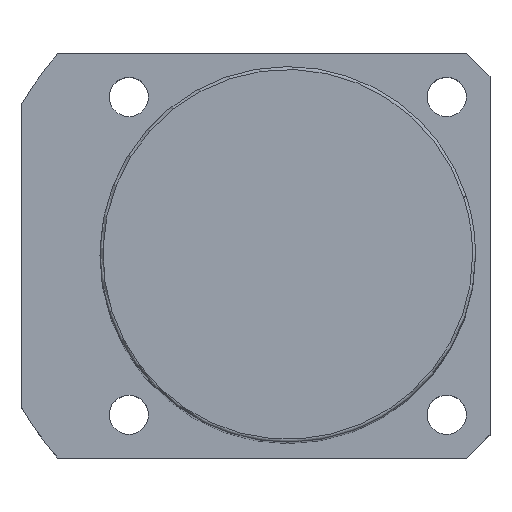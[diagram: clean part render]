
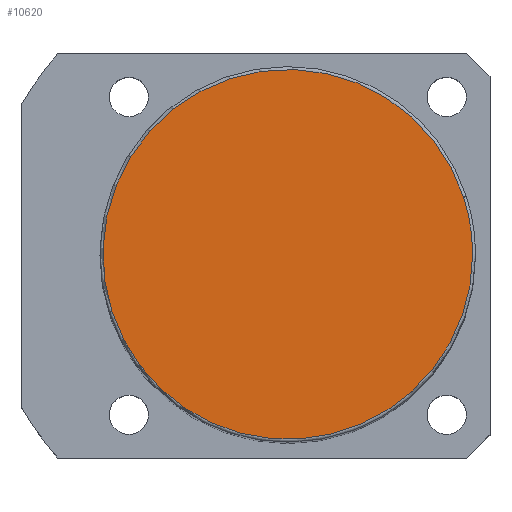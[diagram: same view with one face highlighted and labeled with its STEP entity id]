
A CAD part, top view. The second image highlights one B-rep face of the part: STEP entity #10620.
In plain terms, the highlighted planar face has unit normal (0, 0, 1).
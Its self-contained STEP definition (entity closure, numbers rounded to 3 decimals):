
#10553=CARTESIAN_POINT('',(30.434,9.889,161.0));
#10554=VERTEX_POINT('',#10553);
#10572=CARTESIAN_POINT('',(-30.434,-9.889,161.0));
#10573=VERTEX_POINT('',#10572);
#10581=CARTESIAN_POINT('',(0.0,0.0,161.0));
#10582=DIRECTION('',(0.0,0.0,1.0));
#10583=DIRECTION('',(1.0,0.0,0.0));
#10584=AXIS2_PLACEMENT_3D('',#10581,#10582,#10583);
#10585=CIRCLE('',#10584,32.0);
#10586=EDGE_CURVE('no 4887',#10554,#10573,#10585,.T.);
#10596=CARTESIAN_POINT('',(32.0,0.0,161.0));
#10597=VERTEX_POINT('',#10596);
#10598=CARTESIAN_POINT('',(0.0,0.0,161.0));
#10599=DIRECTION('',(0.0,0.0,1.0));
#10600=DIRECTION('',(1.0,0.0,0.0));
#10601=AXIS2_PLACEMENT_3D('',#10598,#10599,#10600);
#10602=CIRCLE('',#10601,32.0);
#10603=EDGE_CURVE('no 4896',#10597,#10554,#10602,.T.);
#10604=ORIENTED_EDGE('',*,*,#10603,.T.);
#10605=ORIENTED_EDGE('',*,*,#10586,.T.);
#10606=CARTESIAN_POINT('',(0.0,0.0,161.0));
#10607=DIRECTION('',(0.0,0.0,1.0));
#10608=DIRECTION('',(1.0,0.0,0.0));
#10609=AXIS2_PLACEMENT_3D('',#10606,#10607,#10608);
#10610=CIRCLE('',#10609,32.0);
#10611=EDGE_CURVE('no 4902',#10573,#10597,#10610,.T.);
#10612=ORIENTED_EDGE('',*,*,#10611,.T.);
#10613=EDGE_LOOP('',(#10604,#10605,#10612));
#10614=FACE_OUTER_BOUND('',#10613,.T.);
#10615=CARTESIAN_POINT('',(0.0,0.0,161.0));
#10616=DIRECTION('',(0.0,0.0,1.0));
#10617=DIRECTION('',(1.0,0.0,0.0));
#10618=AXIS2_PLACEMENT_3D('',#10615,#10616,#10617);
#10619=PLANE('',#10618);
#10620=ADVANCED_FACE('no 4889',(#10614),#10619,.T.);
